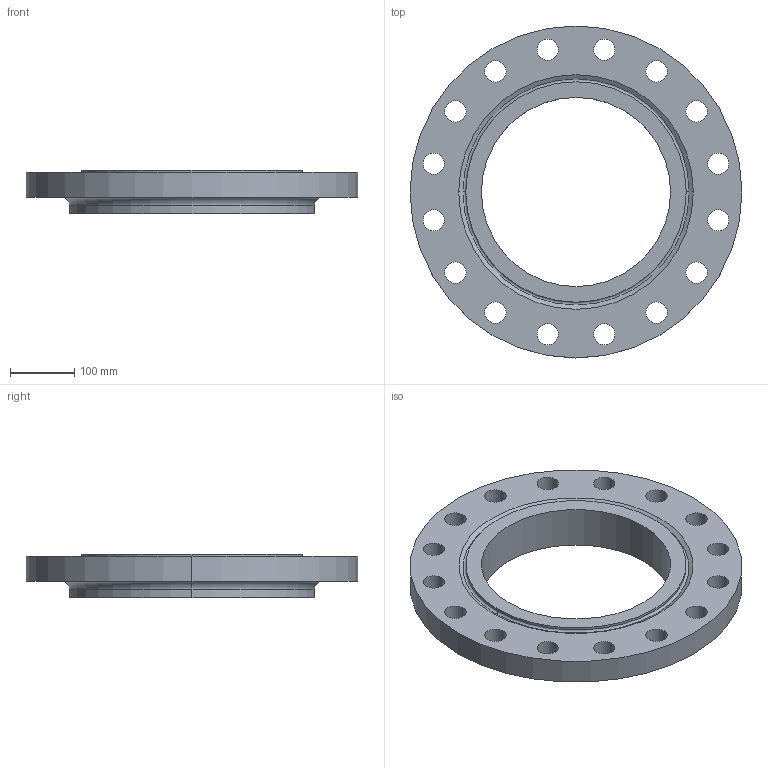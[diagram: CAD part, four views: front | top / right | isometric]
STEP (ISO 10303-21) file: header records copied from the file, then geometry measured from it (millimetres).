
FILE_DESCRIPTION (( 'STEP AP214' ), '1' );
FILE_NAME ('PN40 DN300 Type 13 - Type H Face.STEP', '2019-01-05T20:18:19', ( '' ), ( '' ), 'SwSTEP 2.0', 'SolidWorks 2019', '' );
FILE_SCHEMA (( 'AUTOMOTIVE_DESIGN' ));
Length unit declared in the file: millimetre
Products named in the file (1): PN40 DN300 Type 13 - Type H Face
Bounding box: 515 x 515 x 67 mm (x, y, z)
Volume: 6222217.6 mm3; surface area: 476446 mm2
Topology: 1 solids, 1 shells, 50 faces, 132 edges, 86 vertices
Faces by surface type: cylinder 40, torus 4, plane 4, cone 2
Entity records: 1700 total; most frequent: DIRECTION 324, CARTESIAN_POINT 269, ORIENTED_EDGE 264, AXIS2_PLACEMENT_3D 141, EDGE_CURVE 132, CIRCLE 90, VERTEX_POINT 86, EDGE_LOOP 86
